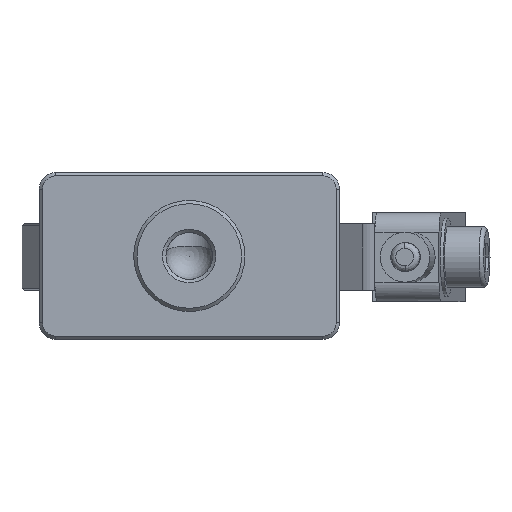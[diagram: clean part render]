
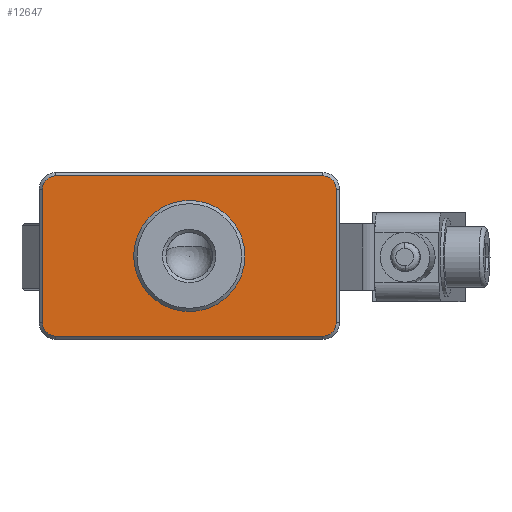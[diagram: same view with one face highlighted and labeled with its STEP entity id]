
A CAD part, front view. The second image highlights one B-rep face of the part: STEP entity #12647.
In plain terms, the highlighted planar face has unit normal (0, -1, 0).
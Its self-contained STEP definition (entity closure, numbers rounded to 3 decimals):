
#7011=PLANE('',#23983);
#7821=LINE('',#29874,#9669);
#7825=LINE('',#29881,#9673);
#7867=LINE('',#30123,#9715);
#7877=LINE('',#30261,#9725);
#9669=VECTOR('',#25279,1.);
#9673=VECTOR('',#25287,1.);
#9715=VECTOR('',#25447,1.);
#9725=VECTOR('',#25527,1.);
#12647=ADVANCED_FACE('',(#13652,#13653),#7011,.T.);
#13652=FACE_BOUND('',#13989,.T.);
#13653=FACE_BOUND('',#13990,.T.);
#13989=EDGE_LOOP('',(#15530,#15531,#15532,#15533,#15534,#15535,#15536,#15537));
#13990=EDGE_LOOP('',(#15538));
#15530=ORIENTED_EDGE('',*,*,#21258,.T.);
#15531=ORIENTED_EDGE('',*,*,#21369,.T.);
#15532=ORIENTED_EDGE('',*,*,#21372,.T.);
#15533=ORIENTED_EDGE('',*,*,#21373,.T.);
#15534=ORIENTED_EDGE('',*,*,#21262,.T.);
#15535=ORIENTED_EDGE('',*,*,#21346,.T.);
#15536=ORIENTED_EDGE('',*,*,#21344,.T.);
#15537=ORIENTED_EDGE('',*,*,#21341,.T.);
#15538=ORIENTED_EDGE('',*,*,#21175,.F.);
#19702=VERTEX_POINT('',#29593);
#19774=VERTEX_POINT('',#29873);
#19775=VERTEX_POINT('',#29875);
#19776=VERTEX_POINT('',#29882);
#19777=VERTEX_POINT('',#29883);
#19818=VERTEX_POINT('',#30114);
#19820=VERTEX_POINT('',#30120);
#19829=VERTEX_POINT('',#30255);
#19830=VERTEX_POINT('',#30260);
#21175=EDGE_CURVE('',#19702,#19702,#23453,.T.);
#21258=EDGE_CURVE('',#19775,#19774,#7821,.T.);
#21262=EDGE_CURVE('',#19776,#19777,#7825,.T.);
#21341=EDGE_CURVE('',#19818,#19775,#23512,.T.);
#21344=EDGE_CURVE('',#19820,#19818,#7867,.T.);
#21346=EDGE_CURVE('',#19777,#19820,#23514,.T.);
#21369=EDGE_CURVE('',#19774,#19829,#23529,.T.);
#21372=EDGE_CURVE('',#19829,#19830,#7877,.T.);
#21373=EDGE_CURVE('',#19830,#19776,#23531,.T.);
#23453=CIRCLE('',#23776,5.);
#23512=CIRCLE('',#23893,1.2);
#23514=CIRCLE('',#23897,1.2);
#23529=CIRCLE('',#23927,1.2);
#23531=CIRCLE('',#23931,1.2);
#23776=AXIS2_PLACEMENT_3D('',#29592,#25128,#25129);
#23893=AXIS2_PLACEMENT_3D('',#30117,#25441,#25442);
#23897=AXIS2_PLACEMENT_3D('',#30126,#25452,#25453);
#23927=AXIS2_PLACEMENT_3D('',#30256,#25520,#25521);
#23931=AXIS2_PLACEMENT_3D('',#30263,#25530,#25531);
#23983=AXIS2_PLACEMENT_3D('',#30519,#25645,#25646);
#25128=DIRECTION('',(0.,-1.,0.));
#25129=DIRECTION('',(0.,0.,-1.));
#25279=DIRECTION('',(0.,0.,-1.));
#25287=DIRECTION('',(0.,0.,1.));
#25441=DIRECTION('',(0.,-1.,0.));
#25442=DIRECTION('',(0.,0.,-1.));
#25447=DIRECTION('',(-1.,0.,0.));
#25452=DIRECTION('',(0.,-1.,0.));
#25453=DIRECTION('',(0.,0.,-1.));
#25520=DIRECTION('',(0.,-1.,0.));
#25521=DIRECTION('',(0.,0.,-1.));
#25527=DIRECTION('',(1.,0.,0.));
#25530=DIRECTION('',(0.,-1.,0.));
#25531=DIRECTION('',(0.,0.,-1.));
#25645=DIRECTION('',(0.,-1.,0.));
#25646=DIRECTION('',(0.,0.,1.));
#29592=CARTESIAN_POINT('',(88.412,-23.942,74.9));
#29593=CARTESIAN_POINT('',(88.412,-23.942,69.9));
#29873=CARTESIAN_POINT('',(75.212,-23.942,68.9));
#29874=CARTESIAN_POINT('',(75.212,-23.942,82.4));
#29875=CARTESIAN_POINT('',(75.212,-23.942,80.9));
#29881=CARTESIAN_POINT('',(101.612,-23.942,82.4));
#29882=CARTESIAN_POINT('',(101.612,-23.942,68.9));
#29883=CARTESIAN_POINT('',(101.612,-23.942,80.9));
#30114=CARTESIAN_POINT('',(76.412,-23.942,82.1));
#30117=CARTESIAN_POINT('',(76.412,-23.942,80.9));
#30120=CARTESIAN_POINT('',(100.412,-23.942,82.1));
#30123=CARTESIAN_POINT('',(76.412,-23.942,82.1));
#30126=CARTESIAN_POINT('',(100.412,-23.942,80.9));
#30255=CARTESIAN_POINT('',(76.412,-23.942,67.7));
#30256=CARTESIAN_POINT('',(76.412,-23.942,68.9));
#30260=CARTESIAN_POINT('',(100.412,-23.942,67.7));
#30261=CARTESIAN_POINT('',(100.912,-23.942,67.7));
#30263=CARTESIAN_POINT('',(100.412,-23.942,68.9));
#30519=CARTESIAN_POINT('',(100.912,-23.942,82.4));
